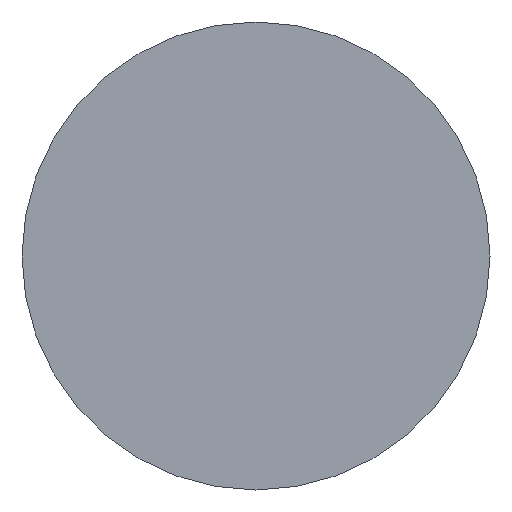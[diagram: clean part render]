
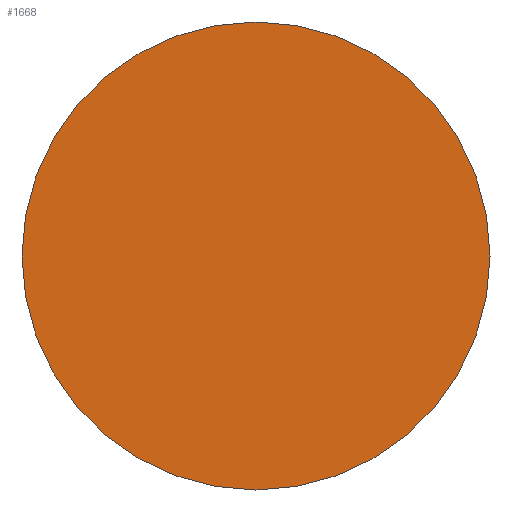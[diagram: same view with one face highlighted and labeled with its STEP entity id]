
A CAD part, front view. The second image highlights one B-rep face of the part: STEP entity #1668.
In plain terms, the highlighted planar face has unit normal (0, -1, 0).
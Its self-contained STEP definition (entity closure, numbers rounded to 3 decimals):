
#41 = PLANE ( 'NONE',  #3239 ) ;
#292 = CARTESIAN_POINT ( 'NONE',  ( 34., -25., 0. ) ) ;
#701 = DIRECTION ( 'NONE',  ( 1., 0., 0. ) ) ;
#830 = CARTESIAN_POINT ( 'NONE',  ( 0., -25., 0. ) ) ;
#1056 = DIRECTION ( 'NONE',  ( 0., -1., 0. ) ) ;
#1297 = CARTESIAN_POINT ( 'NONE',  ( 34., -25., 0. ) ) ;
#1406 = EDGE_CURVE ( 'NONE', #1500, #2411, #3692, .T. ) ;
#1500 = VERTEX_POINT ( 'NONE', #3170 ) ;
#1582 = AXIS2_PLACEMENT_3D ( 'NONE', #830, #2087, #3339 ) ;
#1583 = EDGE_CURVE ( 'NONE', #2411, #1500, #3954, .T. ) ;
#1668 = ADVANCED_FACE ( 'NONE', ( #3887 ), #41, .T. ) ;
#1808 = ORIENTED_EDGE ( 'NONE', *, *, #1583, .T. ) ;
#1830 = EDGE_LOOP ( 'NONE', ( #1808, #3317 ) ) ;
#1980 = DIRECTION ( 'NONE',  ( 1., 0., 0. ) ) ;
#2087 = DIRECTION ( 'NONE',  ( 0., -1., 0. ) ) ;
#2184 = AXIS2_PLACEMENT_3D ( 'NONE', #2943, #2610, #1980 ) ;
#2411 = VERTEX_POINT ( 'NONE', #292 ) ;
#2610 = DIRECTION ( 'NONE',  ( 0., -1., 0. ) ) ;
#2943 = CARTESIAN_POINT ( 'NONE',  ( 0., -25., 0. ) ) ;
#3170 = CARTESIAN_POINT ( 'NONE',  ( -34., -25., 0. ) ) ;
#3239 = AXIS2_PLACEMENT_3D ( 'NONE', #1297, #1056, #701 ) ;
#3317 = ORIENTED_EDGE ( 'NONE', *, *, #1406, .T. ) ;
#3339 = DIRECTION ( 'NONE',  ( 1., 0., 0. ) ) ;
#3692 = CIRCLE ( 'NONE', #1582, 34. ) ;
#3887 = FACE_OUTER_BOUND ( 'NONE', #1830, .T. ) ;
#3954 = CIRCLE ( 'NONE', #2184, 34. ) ;
